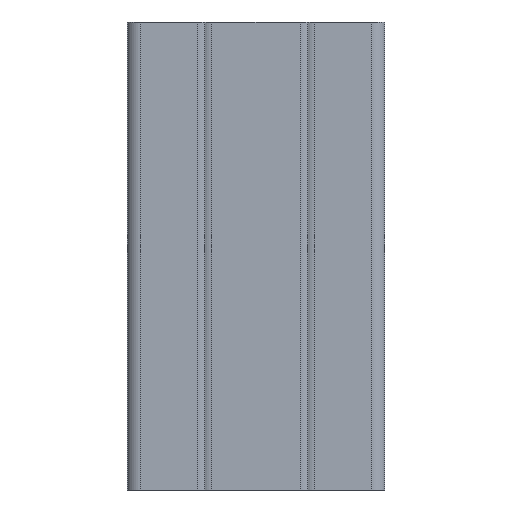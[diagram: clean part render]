
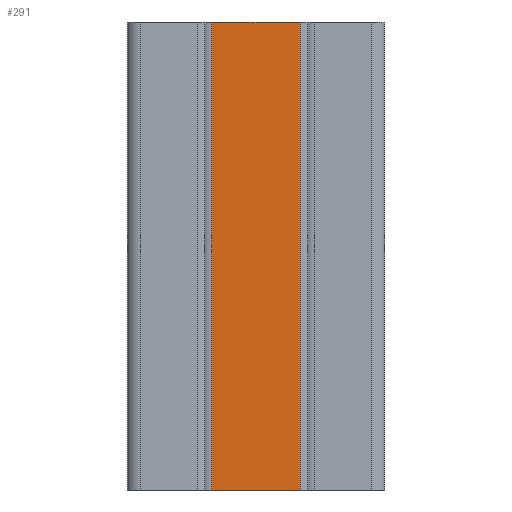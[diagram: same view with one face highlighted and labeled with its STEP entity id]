
A CAD part, left-side view. The second image highlights one B-rep face of the part: STEP entity #291.
In plain terms, the highlighted planar face has unit normal (-1, 0, 0).
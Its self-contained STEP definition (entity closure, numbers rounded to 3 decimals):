
#10 = CARTESIAN_POINT ( 'NONE',  ( -12.5, -9.5, 100. ) ) ;
#37 = ORIENTED_EDGE ( 'NONE', *, *, #167, .F. ) ;
#82 = VECTOR ( 'NONE', #590, 1000. ) ;
#167 = EDGE_CURVE ( 'NONE', #1980, #404, #1841, .T. ) ;
#201 = LINE ( 'NONE', #2077, #82 ) ;
#211 = VERTEX_POINT ( 'NONE', #1272 ) ;
#291 = ADVANCED_FACE ( 'NONE', ( #725 ), #801, .F. ) ;
#343 = CARTESIAN_POINT ( 'NONE',  ( -12.5, -9.5, 100. ) ) ;
#371 = ORIENTED_EDGE ( 'NONE', *, *, #559, .T. ) ;
#404 = VERTEX_POINT ( 'NONE', #583 ) ;
#528 = DIRECTION ( 'NONE',  ( 0., -1., 0. ) ) ;
#548 = DIRECTION ( 'NONE',  ( 0., -1., 0. ) ) ;
#559 = EDGE_CURVE ( 'NONE', #1803, #211, #1757, .T. ) ;
#575 = DIRECTION ( 'NONE',  ( 0., 0., -1. ) ) ;
#583 = CARTESIAN_POINT ( 'NONE',  ( -12.5, -9.5, 100. ) ) ;
#590 = DIRECTION ( 'NONE',  ( 0., 0., -1. ) ) ;
#720 = CARTESIAN_POINT ( 'NONE',  ( -12.5, 9.5, 100. ) ) ;
#725 = FACE_OUTER_BOUND ( 'NONE', #1512, .T. ) ;
#796 = DIRECTION ( 'NONE',  ( 1., 0., 0. ) ) ;
#801 = PLANE ( 'NONE',  #920 ) ;
#828 = VECTOR ( 'NONE', #548, 1000. ) ;
#916 = ORIENTED_EDGE ( 'NONE', *, *, #2087, .F. ) ;
#920 = AXIS2_PLACEMENT_3D ( 'NONE', #10, #796, #1613 ) ;
#1055 = VECTOR ( 'NONE', #528, 1000. ) ;
#1272 = CARTESIAN_POINT ( 'NONE',  ( -12.5, -9.5, 0. ) ) ;
#1358 = EDGE_CURVE ( 'NONE', #1980, #1803, #1417, .T. ) ;
#1417 = LINE ( 'NONE', #720, #1876 ) ;
#1512 = EDGE_LOOP ( 'NONE', ( #371, #916, #37, #1656 ) ) ;
#1592 = CARTESIAN_POINT ( 'NONE',  ( -12.5, 9.5, 100. ) ) ;
#1613 = DIRECTION ( 'NONE',  ( 0., 0., -1. ) ) ;
#1656 = ORIENTED_EDGE ( 'NONE', *, *, #1358, .T. ) ;
#1757 = LINE ( 'NONE', #1909, #828 ) ;
#1803 = VERTEX_POINT ( 'NONE', #2037 ) ;
#1841 = LINE ( 'NONE', #343, #1055 ) ;
#1876 = VECTOR ( 'NONE', #575, 1000. ) ;
#1909 = CARTESIAN_POINT ( 'NONE',  ( -12.5, -9.5, 0. ) ) ;
#1980 = VERTEX_POINT ( 'NONE', #1592 ) ;
#2037 = CARTESIAN_POINT ( 'NONE',  ( -12.5, 9.5, 0. ) ) ;
#2077 = CARTESIAN_POINT ( 'NONE',  ( -12.5, -9.5, 100. ) ) ;
#2087 = EDGE_CURVE ( 'NONE', #404, #211, #201, .T. ) ;
